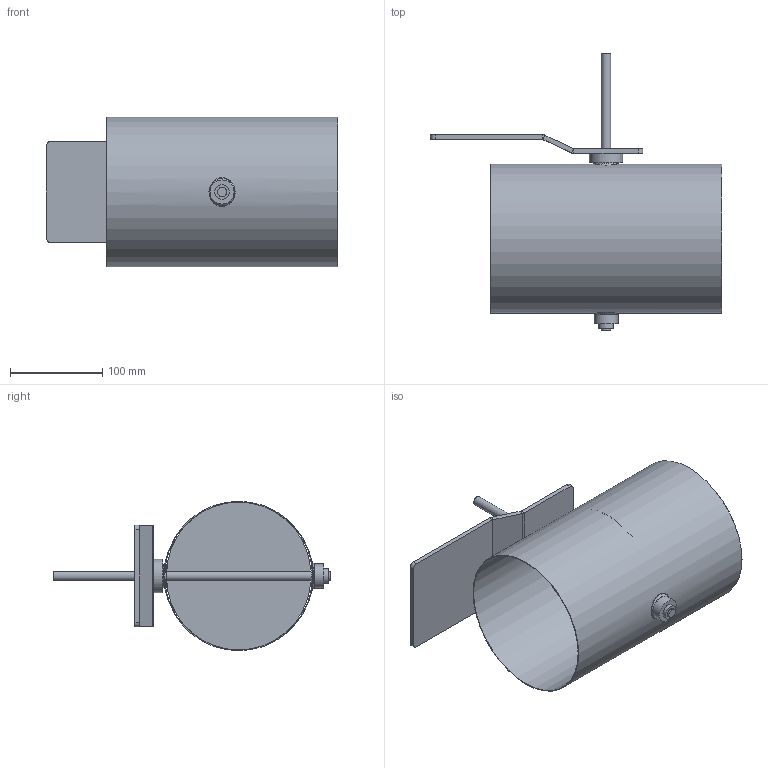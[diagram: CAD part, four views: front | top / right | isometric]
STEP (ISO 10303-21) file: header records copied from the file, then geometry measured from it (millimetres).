
FILE_DESCRIPTION(/* description */ (''),/* implementation_level */ '2;1');
FILE_NAME(/* name */ 'AA125-80B__160_L250_Belimo_Typen_NF_SF.stp',/* time_stamp */ '2017-12-06T13:08:05+01:00',/* author */ (''),/* organization */ (''),/* preprocessor_version */ 'ST-DEVELOPER v11',/* originating_system */ 'SIEMENS UGS NX 6.0',/* authorisation */ '');
FILE_SCHEMA (('CONFIG_CONTROL_DESIGN'));
Length unit declared in the file: millimetre
Products named in the file (1): gars18E2j202
Bounding box: 315 x 299 x 161.6 mm (x, y, z)
Volume: 289140.4 mm3; surface area: 366854.7 mm2
Topology: 8 solids, 8 shells, 82 faces, 174 edges, 114 vertices
Faces by surface type: plane 40, cylinder 30, cone 4, bspline 4, torus 4
Full cylindrical faces by diameter (mm): 4.1 x4, 10 x3, 15 x3, 15.85 x2, 16 x2, 24 x2, 26 x1, 36 x1, 160 x1, 161.6 x1
Entity records: 2586 total; most frequent: CARTESIAN_POINT 905, DIRECTION 342, ORIENTED_EDGE 248, AXIS2_PLACEMENT_3D 147, EDGE_LOOP 144, EDGE_CURVE 124, FACE_BOUND 114, VERTEX_POINT 96
